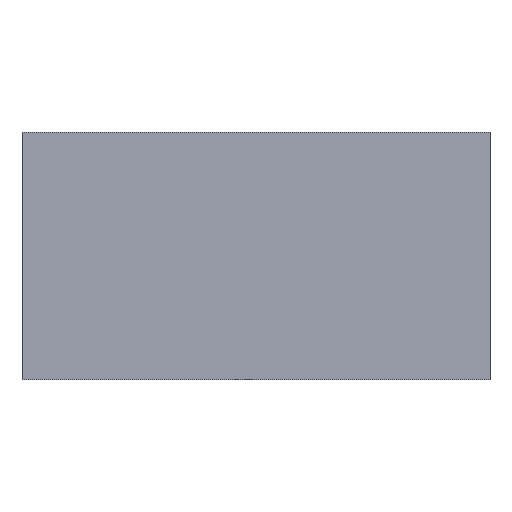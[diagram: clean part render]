
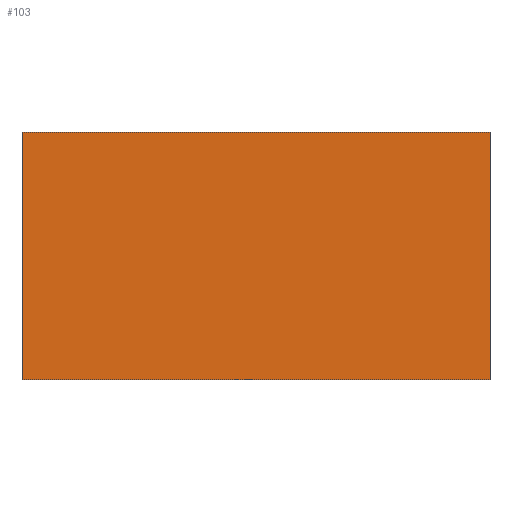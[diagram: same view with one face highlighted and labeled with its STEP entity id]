
A CAD part, front view. The second image highlights one B-rep face of the part: STEP entity #103.
In plain terms, the highlighted planar face has unit normal (0, -1, 0).
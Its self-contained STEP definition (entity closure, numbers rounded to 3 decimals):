
#17=FACE_OUTER_BOUND('',#23,.T.);
#23=EDGE_LOOP('',(#79,#80,#81,#82));
#27=LINE('',#157,#39);
#31=LINE('',#166,#43);
#35=LINE('',#173,#47);
#36=LINE('',#174,#48);
#39=VECTOR('',#131,1.);
#43=VECTOR('',#137,1.);
#47=VECTOR('',#143,1.);
#48=VECTOR('',#144,1.);
#51=VERTEX_POINT('',#155);
#52=VERTEX_POINT('',#156);
#55=VERTEX_POINT('',#164);
#56=VERTEX_POINT('',#165);
#59=EDGE_CURVE('',#51,#52,#27,.T.);
#63=EDGE_CURVE('',#55,#56,#31,.T.);
#67=EDGE_CURVE('',#51,#55,#35,.T.);
#68=EDGE_CURVE('',#52,#56,#36,.T.);
#79=ORIENTED_EDGE('',*,*,#67,.T.);
#80=ORIENTED_EDGE('',*,*,#63,.T.);
#81=ORIENTED_EDGE('',*,*,#68,.F.);
#82=ORIENTED_EDGE('',*,*,#59,.F.);
#97=PLANE('',#123);
#103=ADVANCED_FACE('',(#17),#97,.F.);
#123=AXIS2_PLACEMENT_3D('',#172,#141,#142);
#131=DIRECTION('',(0.,0.,1.));
#137=DIRECTION('',(0.,0.,1.));
#141=DIRECTION('center_axis',(0.,1.,0.));
#142=DIRECTION('ref_axis',(0.,0.,1.));
#143=DIRECTION('',(1.,0.,0.));
#144=DIRECTION('',(1.,0.,0.));
#155=CARTESIAN_POINT('',(17.7,64.28,-15.8));
#156=CARTESIAN_POINT('',(17.7,64.28,-10.1));
#157=CARTESIAN_POINT('',(17.7,64.28,-15.8));
#164=CARTESIAN_POINT('',(28.5,64.28,-15.8));
#165=CARTESIAN_POINT('',(28.5,64.28,-10.1));
#166=CARTESIAN_POINT('',(28.5,64.28,-15.8));
#172=CARTESIAN_POINT('Origin',(17.7,64.28,-15.8));
#173=CARTESIAN_POINT('',(17.7,64.28,-15.8));
#174=CARTESIAN_POINT('',(17.7,64.28,-10.1));
